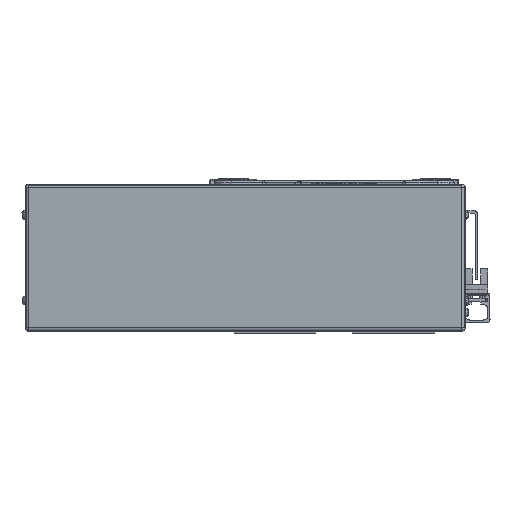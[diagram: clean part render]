
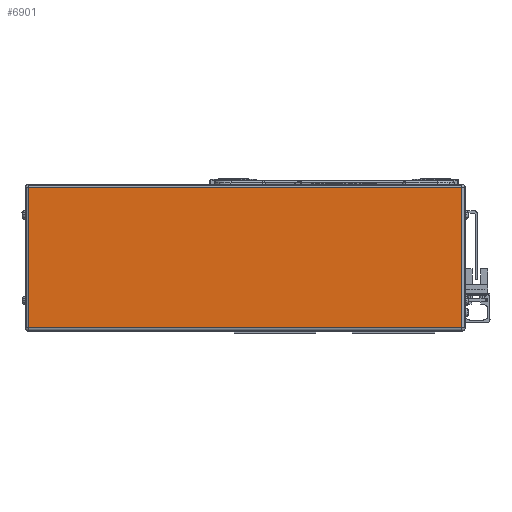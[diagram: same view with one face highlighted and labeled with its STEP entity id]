
A CAD part, left-side view. The second image highlights one B-rep face of the part: STEP entity #6901.
In plain terms, the highlighted planar face has unit normal (-1, 0, 0).
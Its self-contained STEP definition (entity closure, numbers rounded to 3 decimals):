
#6901=ADVANCED_FACE('',(#14415),#14416,.F.);
#14415=FACE_OUTER_BOUND('',#23880,.T.);
#14416=PLANE('',#23881);
#23880=EDGE_LOOP('',(#43266,#43267,#43268,#43269));
#23881=AXIS2_PLACEMENT_3D('',#43270,#43271,#43272);
#43266=ORIENTED_EDGE('',*,*,#53660,.T.);
#43267=ORIENTED_EDGE('',*,*,#53423,.T.);
#43268=ORIENTED_EDGE('',*,*,#50064,.T.);
#43269=ORIENTED_EDGE('',*,*,#57243,.T.);
#43270=CARTESIAN_POINT('',(-45.,180.5,0.));
#43271=DIRECTION('',(1.0,0.,0.));
#43272=DIRECTION('',(0.,0.,1.0));
#50064=EDGE_CURVE('',#59401,#59399,#59402,.T.);
#53423=EDGE_CURVE('',#65114,#59401,#65115,.T.);
#53660=EDGE_CURVE('',#64124,#65114,#65480,.T.);
#57243=EDGE_CURVE('',#59399,#64124,#70459,.T.);
#59399=VERTEX_POINT('',#73001);
#59401=VERTEX_POINT('',#73003);
#59402=LINE('',#73004,#73005);
#64124=VERTEX_POINT('',#79791);
#65114=VERTEX_POINT('',#81140);
#65115=LINE('',#81141,#81142);
#65480=LINE('',#81649,#81650);
#70459=LINE('',#88613,#88614);
#73001=CARTESIAN_POINT('',(-45.,-74.5,41.));
#73003=CARTESIAN_POINT('',(-45.,-74.5,-41.));
#73004=CARTESIAN_POINT('',(-45.,-74.5,0.));
#73005=VECTOR('',#91460,10.0);
#79791=CARTESIAN_POINT('',(-45.,178.5,41.));
#81140=CARTESIAN_POINT('',(-45.,178.5,-41.));
#81141=CARTESIAN_POINT('',(-45.,180.5,-41.));
#81142=VECTOR('',#96140,10.0);
#81649=CARTESIAN_POINT('',(-45.,178.5,0.));
#81650=VECTOR('',#96445,10.0);
#88613=CARTESIAN_POINT('',(-45.,180.5,41.));
#88614=VECTOR('',#100828,10.0);
#91460=DIRECTION('',(0.,0.,1.0));
#96140=DIRECTION('',(0.,-1.0,0.));
#96445=DIRECTION('',(0.,0.,-1.0));
#100828=DIRECTION('',(0.,1.0,0.));
